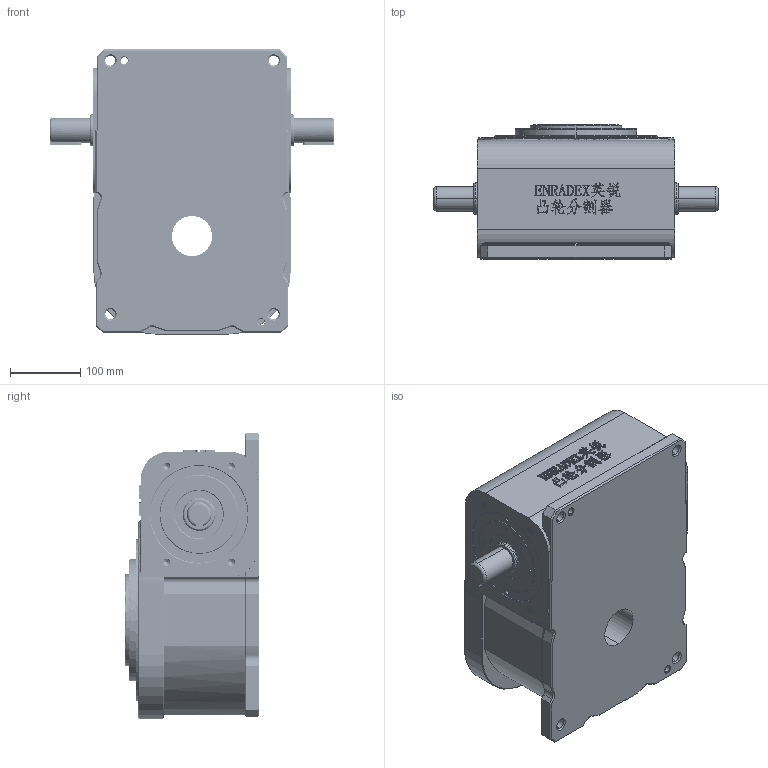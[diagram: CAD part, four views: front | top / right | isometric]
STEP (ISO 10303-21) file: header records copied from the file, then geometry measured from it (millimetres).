
FILE_DESCRIPTION (( 'STEP AP214' ), '1' );
FILE_NAME ('ER-RU150DA英锐凸轮分割器3D固定盘壳体和法兰面加销孔标准图纸(电话15062628977)AA.STEP', '2022-08-10T10:18:48', ( '微软用户' ), ( '微软中国' ), 'SwSTEP 2.0', 'SolidWorks 2017', '' );
FILE_SCHEMA (( 'AUTOMOTIVE_DESIGN' ));
Length unit declared in the file: millimetre
Products named in the file (1): ER-RU150DA英锐凸轮分割器3D固定盘壳体和法兰面加销孔标准图纸(电话15062628977)AA
Bounding box: 404 x 190 x 405 mm (x, y, z)
Volume: 16813182.3 mm3; surface area: 527192.7 mm2
Topology: 1 solids, 1 shells, 2541 faces, 6992 edges, 4549 vertices
Faces by surface type: plane 1152, cylinder 704, bspline 492, cone 193
Entity records: 173457 total; most frequent: CARTESIAN_POINT 115202, ORIENTED_EDGE 13888, DIRECTION 9082, EDGE_CURVE 6944, VERTEX_POINT 4549, LINE 4224, VECTOR 4224, EDGE_LOOP 2699
